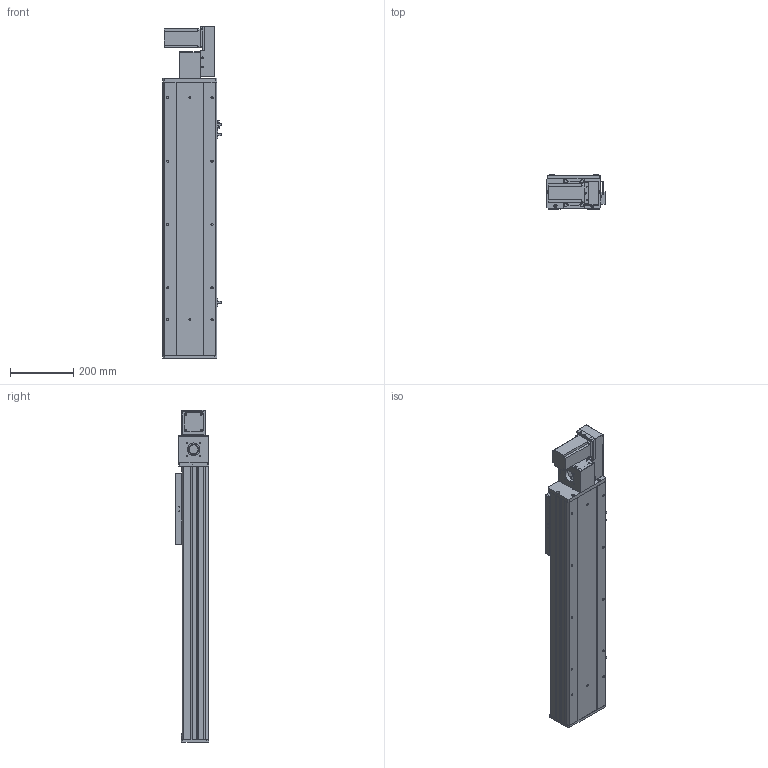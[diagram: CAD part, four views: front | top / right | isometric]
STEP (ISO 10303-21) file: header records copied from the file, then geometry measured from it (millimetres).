
FILE_DESCRIPTION (( 'STEP AP203' ), '1' );
FILE_NAME ('Y170CB-D105-S550-BR-P400W.STEP', '2020-02-19T08:46:05', ( '微软用户' ), ( '微软中国' ), 'SwSTEP 2.0', 'SolidWorks 2017', '' );
FILE_SCHEMA (( 'CONFIG_CONTROL_DESIGN' ));
Length unit declared in the file: millimetre
Products named in the file (17): 17B-耜蚾蟀諉啣----; 0B-萇儂楊擘啣; san松下电机400不带刹车----; Y70俋欶BR----; 70CB-掛极-; --70CB --喘謫眊楊擘啣-; 70CB-耜裔啣-; 70C--詩湍揤踡え-; 70CB--耜裔; 70C-雄赽釱-奻-; 0C--雄赽釱俋欶-170; 70CB-詩湍--; Y100-135俋离換覜ん--; Y170CB-陔俋离換覜結え---; Y170CB-D105-S550-BR-P400W; 70B喘謫眊----; B-源倛裔啣
Assembly tree (20 placements, depth 2):
  Y170CB-D105-S550-BR-P400W
    70B喘謫眊----
    B-源倛裔啣
    17B-耜蚾蟀諉啣----
    0B-萇儂楊擘啣
    san松下电机400不带刹车----
    Y70俋欶BR----
    70CB-掛极-
    --70CB --喘謫眊楊擘啣-
    70CB-耜裔啣-  x2
    70C--詩湍揤踡え-  x2
    70CB--耜裔
    70C-雄赽釱-奻-
    0C--雄赽釱俋欶-170
    70CB-詩湍--
    Y100-135俋离換覜ん--  x3
    Y170CB-陔俋离換覜結え---
Bounding box: 183.5 x 107 x 1047 mm (x, y, z)
Volume: 4760266.6 mm3; surface area: 1688678.1 mm2
Topology: 20 solids, 20 shells, 977 faces, 2609 edges, 1730 vertices
Faces by surface type: cylinder 491, plane 462, cone 24
Entity records: 30875 total; most frequent: CARTESIAN_POINT 5661, DIRECTION 5020, ORIENTED_EDGE 4700, EDGE_CURVE 2350, AXIS2_PLACEMENT_3D 1825, VERTEX_POINT 1560, LINE 1370, VECTOR 1370
